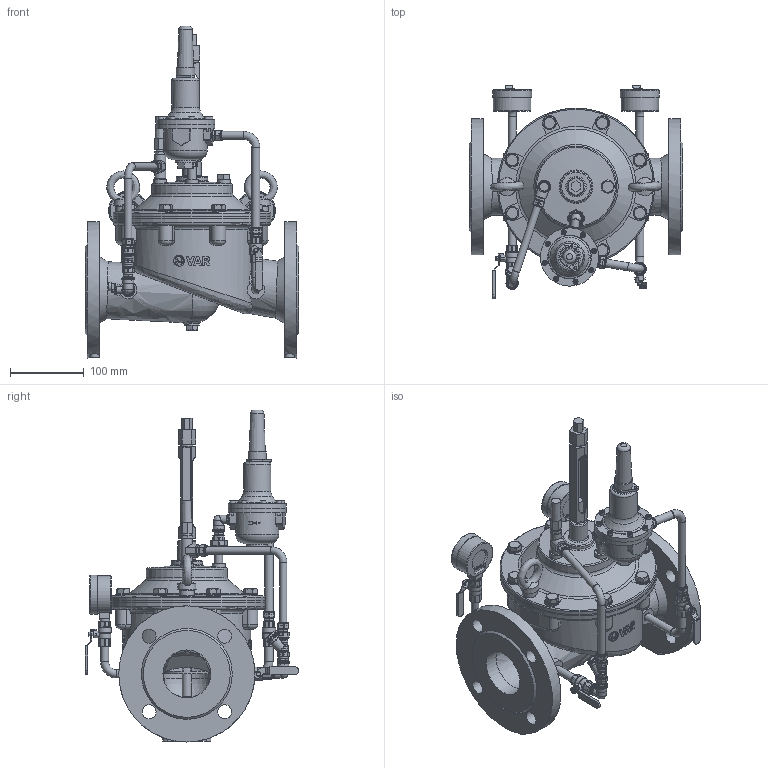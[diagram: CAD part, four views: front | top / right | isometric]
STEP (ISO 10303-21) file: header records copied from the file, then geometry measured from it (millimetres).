
FILE_DESCRIPTION(('STEP AP242'), '1');
FILE_NAME('PICO C200', '', ('UNSPECIFIED'), ('UNSPECIFIED'), 'C3D Converter', 'C3D Toolkit', '');
FILE_SCHEMA(('AP242_MANAGED_MODEL_BASED_3D_ENGINEERING_MIM_LF { 1 0 10303 442 1 1 4 }'));
Length unit declared in the file: millimetre
Products named in the file (26): М; ВР.752218.002
Assembly tree (61 placements, depth 3):
  (unnamed)
    (unnamed)
    (unnamed)
    (unnamed)
    (unnamed)
    (unnamed)
    (unnamed)
    (unnamed)
    М  x2
    (unnamed)
    (unnamed)  x4
    ВР.752218.002  x2
    (unnamed)  x6
    (unnamed)
    (unnamed)  x4
    (unnamed)
    (unnamed)
      (unnamed)
      (unnamed)
      (unnamed)  x8
      (unnamed)
    (unnamed)
    (unnamed)  x8
    (unnamed)  x8
    (unnamed)  x2
    (unnamed)  x2
Bounding box: 290 x 290 x 451 mm (x, y, z)
Volume: 2979489.6 mm3; surface area: 876690 mm2
Topology: 67 solids, 69 shells, 2883 faces, 7266 edges, 4760 vertices
Faces by surface type: plane 1598, cylinder 612, cone 313, extrusion 151, torus 111, bspline 87, sphere 11
Full cylindrical faces by diameter (mm): 0.518 x2, 1.2 x1, 2.5 x2, 3 x8, 4 x25, 4.2 x4, 4.5 x4, 5 x2, 6 x8, 7 x8, 8 x5, 8.7 x1, 9 x16, 9.3 x6, 9.5 x2, 10 x45, 10.2 x4, 10.5 x8, 10.8 x2, 11 x17, 11.16 x4, 11.179 x6, 11.22 x4, 11.4 x2, 11.577 x2, 12 x10, 12.5 x3, 12.573 x15, 13.157 x2, 13.8 x4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
Entity records: 113849 total; most frequent: CARTESIAN_POINT 63858, ORIENTED_EDGE 7990, DIRECTION 7188, EDGE_CURVE 3995, VERTEX_POINT 2846, AXIS2_PLACEMENT_3D 2631, EDGE_LOOP 2401, VECTOR 1926
